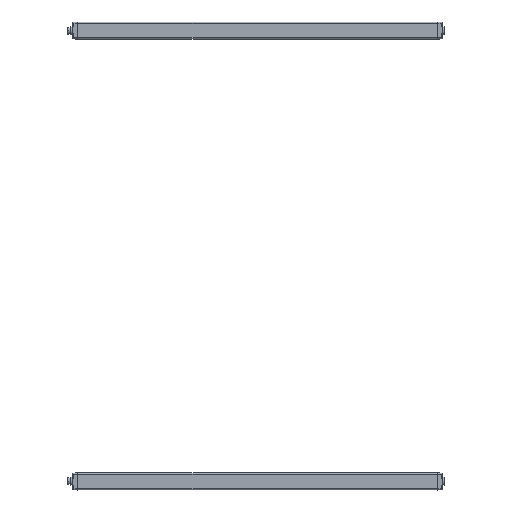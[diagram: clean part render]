
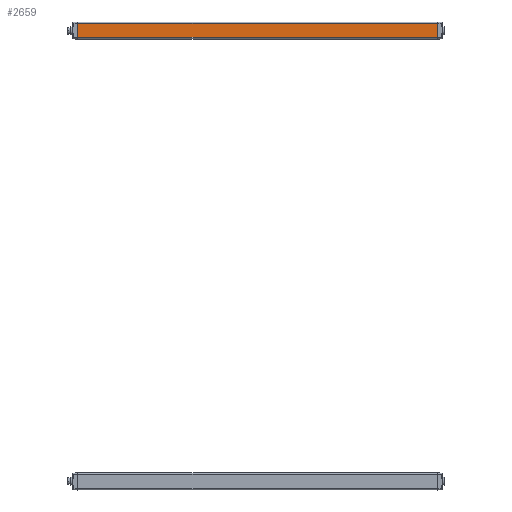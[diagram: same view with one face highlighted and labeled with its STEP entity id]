
A CAD part, front view. The second image highlights one B-rep face of the part: STEP entity #2659.
In plain terms, the highlighted planar face has unit normal (0, -1, 0).
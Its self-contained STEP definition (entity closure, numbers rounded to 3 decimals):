
#154=DIRECTION('',(0.,0.,-1.));
#155=VECTOR('',#154,24.);
#156=CARTESIAN_POINT('',(0.,-15.15,12.));
#157=LINE('',#156,#155);
#412=DIRECTION('',(0.,0.,-1.));
#413=VECTOR('',#412,24.);
#414=CARTESIAN_POINT('',(660.,-15.15,12.));
#415=LINE('',#414,#413);
#880=DIRECTION('',(1.,0.,0.));
#881=VECTOR('',#880,660.);
#882=CARTESIAN_POINT('',(0.,-15.15,12.));
#883=LINE('',#882,#881);
#884=DIRECTION('',(1.,0.,0.));
#885=VECTOR('',#884,660.);
#886=CARTESIAN_POINT('',(0.,-15.15,-12.));
#887=LINE('',#886,#885);
#1298=CARTESIAN_POINT('',(0.,-15.15,12.));
#1299=CARTESIAN_POINT('',(660.,-15.15,12.));
#1300=VERTEX_POINT('',#1298);
#1301=VERTEX_POINT('',#1299);
#1310=CARTESIAN_POINT('',(0.,-15.15,-12.));
#1311=CARTESIAN_POINT('',(660.,-15.15,-12.));
#1312=VERTEX_POINT('',#1310);
#1313=VERTEX_POINT('',#1311);
#2646=CARTESIAN_POINT('',(0.,-15.15,15.65));
#2647=DIRECTION('',(0.,-1.,0.));
#2648=DIRECTION('',(0.,0.,-1.));
#2649=AXIS2_PLACEMENT_3D('',#2646,#2647,#2648);
#2650=PLANE('',#2649);
#2652=ORIENTED_EDGE('',*,*,#2651,.T.);
#2653=ORIENTED_EDGE('',*,*,#1938,.T.);
#2655=ORIENTED_EDGE('',*,*,#2654,.F.);
#2656=ORIENTED_EDGE('',*,*,#1671,.F.);
#2657=EDGE_LOOP('',(#2652,#2653,#2655,#2656));
#2658=FACE_OUTER_BOUND('',#2657,.F.);
#2659=ADVANCED_FACE('',(#2658),#2650,.T.);
#1671=EDGE_CURVE('',#1300,#1312,#157,.T.);
#1938=EDGE_CURVE('',#1301,#1313,#415,.T.);
#2651=EDGE_CURVE('',#1300,#1301,#883,.T.);
#2654=EDGE_CURVE('',#1312,#1313,#887,.T.);
